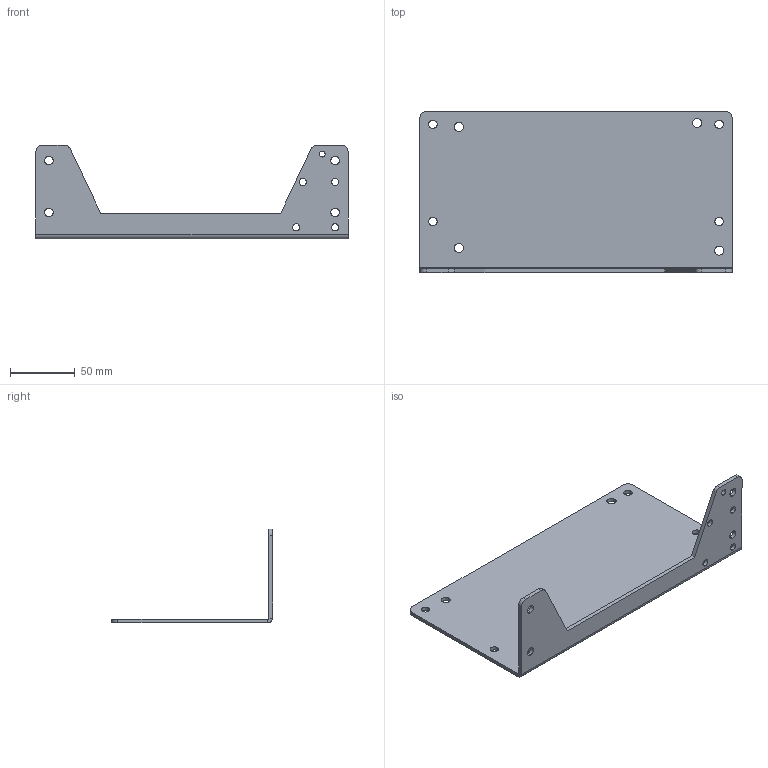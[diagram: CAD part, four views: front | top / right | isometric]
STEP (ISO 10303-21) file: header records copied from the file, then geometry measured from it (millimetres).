
FILE_DESCRIPTION (( 'STEP AP214' ), '1' );
FILE_NAME ('DL07_固定パーツ.STEP', '2024-07-18T04:06:48', ( '' ), ( '' ), 'SwSTEP 2.0', 'SolidWorks 2023', '' );
FILE_SCHEMA (( 'AUTOMOTIVE_DESIGN' ));
Length unit declared in the file: millimetre
Products named in the file (1): DL07_固定パーツ
Bounding box: 241 x 124.5 x 72.5 mm (x, y, z)
Volume: 112075.2 mm3; surface area: 78492.8 mm2
Topology: 1 solids, 1 shells, 58 faces, 160 edges, 104 vertices
Faces by surface type: cylinder 42, plane 16
Entity records: 1975 total; most frequent: DIRECTION 362, CARTESIAN_POINT 323, ORIENTED_EDGE 320, EDGE_CURVE 160, AXIS2_PLACEMENT_3D 143, VERTEX_POINT 104, EDGE_LOOP 92, CIRCLE 84
